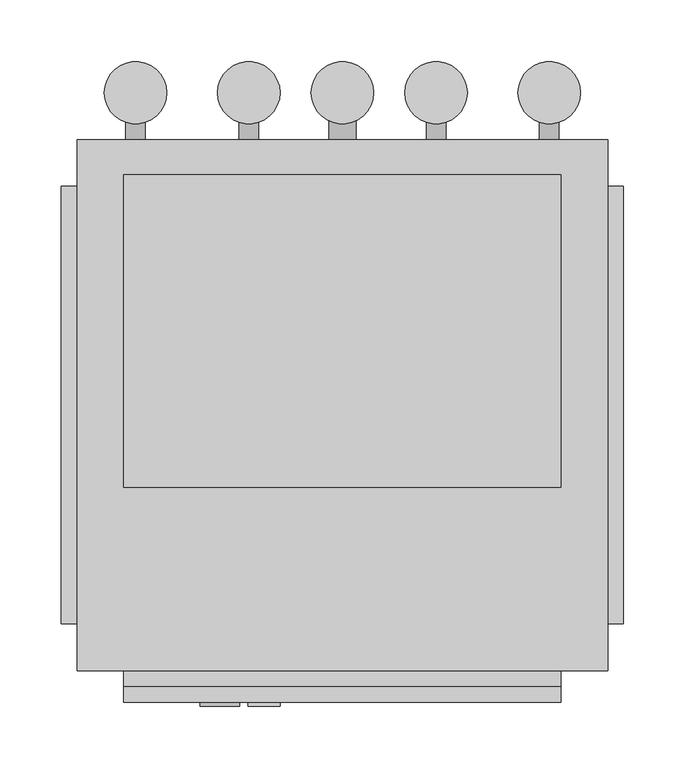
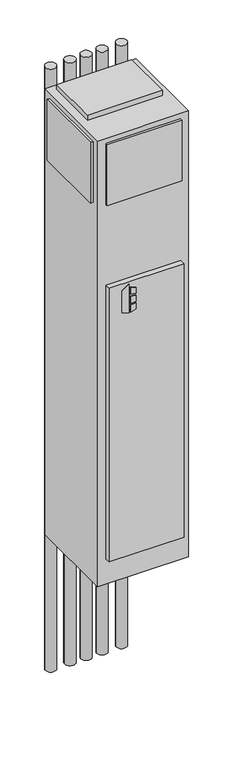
"""IFC4 building model written with IfcOpenShell, lengths in millimetres: proxy geometry, Concealed_Universal_Modular_Fan_Coil_Unit_-_MUY_-_IEC_-_4-Pipe_-_WithRisers_2022 : Size 03 - 277v/60Hz/1Ph - 4/1 Coil."""

from ifc_helpers import new_model, si_unit, point, frame, frame_2d, origin, origin_with_axes, place, context, project, spatial, polyline, circle_curve, trimmed, segment, composite_curve, outline, extrude, source, transform, mapped, element, save


def mechanical_equipment_edf2454a(model_context):
    return source(origin(), model_context, "Body", "SweptSolid", [
        extrude(outline(polyline([(1356.1480703, 252.4868862), (1346.2, 284.6602728), (1488.3709244, 284.6602728), (1465.3489183, 252.4868862), (1356.1480703, 252.4868862)])), frame((0.0, -215.9, 0.0), z_axis=(0.0, 1.0, 0.0), x_axis=(0.0, 0.0, 1.0)), (0.0, 0.0, 1.0), 3.175),
        extrude(outline(polyline([(1435.1473557, 291.4186058), (1431.9449632, 317.5), (1461.1738042, 317.5), (1469.2382193, 291.4186058), (1435.1473557, 291.4186058)])), frame((0.0, -215.9, 0.0), z_axis=(0.0, 1.0, 0.0), x_axis=(0.0, 0.0, 1.0)), (0.0, 0.0, 1.0), 3.175),
        extrude(outline(polyline([(1383.2838288, 317.5), (1379.6183279, 291.4186058), (1346.2, 291.4186058), (1354.8342372, 317.5), (1383.2838288, 317.5)])), frame((0.0, -215.9, 0.0), z_axis=(0.0, 1.0, 0.0), x_axis=(0.0, 0.0, 1.0)), (0.0, 0.0, 1.0), 3.175),
        extrude(outline(polyline([(1422.5989903, 317.5), (1424.8808166, 291.4186058), (1388.9432681, 291.4186058), (1391.6845331, 317.5), (1422.5989903, 317.5)])), frame((0.0, -215.9, 0.0), z_axis=(0.0, 1.0, 0.0), x_axis=(0.0, 0.0, 1.0)), (0.0, 0.0, 1.0), 3.175),
        extrude(outline(composite_curve([segment(trimmed(circle_curve(frame_2d((200.025, 282.575)), 25.4), [point((174.625, 282.575))], [point((225.425, 282.575))], False, "CARTESIAN"), True, "CONTINUOUS"), segment(trimmed(circle_curve(frame_2d((200.025, 282.575)), 25.4), [point((225.425, 282.575))], [point((174.625, 282.575))], False, "CARTESIAN"), True, "CONTINUOUS")], self_intersect=False)), frame((0.0, 0.0, -711.2), z_axis=(0.0, 0.0, 1.0), x_axis=(1.0, 0.0, 0.0)), (0.0, 0.0, 1.0), 3022.6),
        extrude(outline(composite_curve([segment(trimmed(circle_curve(frame_2d((292.1, 282.575)), 25.4), [point((266.7, 282.575))], [point((317.5, 282.575))], False, "CARTESIAN"), True, "CONTINUOUS"), segment(trimmed(circle_curve(frame_2d((292.1, 282.575)), 25.4), [point((317.5, 282.575))], [point((266.7, 282.575))], False, "CARTESIAN"), True, "CONTINUOUS")], self_intersect=False)), frame((0.0, 0.0, -711.2), z_axis=(0.0, 0.0, 1.0), x_axis=(1.0, 0.0, 0.0)), (0.0, 0.0, 1.0), 3022.6),
        extrude(outline(composite_curve([segment(trimmed(circle_curve(frame_2d((368.3, 282.575)), 25.4), [point((342.9, 282.575))], [point((393.7, 282.575))], False, "CARTESIAN"), True, "CONTINUOUS"), segment(trimmed(circle_curve(frame_2d((368.3, 282.575)), 25.4), [point((393.7, 282.575))], [point((342.9, 282.575))], False, "CARTESIAN"), True, "CONTINUOUS")], self_intersect=False)), frame((0.0, 0.0, -711.2), z_axis=(0.0, 0.0, 1.0), x_axis=(1.0, 0.0, 0.0)), (0.0, 0.0, 1.0), 3022.6),
        extrude(outline(composite_curve([segment(trimmed(circle_curve(frame_2d((444.5, 282.575)), 25.4), [point((419.1, 282.575))], [point((469.9, 282.575))], False, "CARTESIAN"), True, "CONTINUOUS"), segment(trimmed(circle_curve(frame_2d((444.5, 282.575)), 25.4), [point((469.9, 282.575))], [point((419.1, 282.575))], False, "CARTESIAN"), True, "CONTINUOUS")], self_intersect=False)), frame((0.0, 0.0, -711.2), z_axis=(0.0, 0.0, 1.0), x_axis=(1.0, 0.0, 0.0)), (0.0, 0.0, 1.0), 3022.6),
        extrude(outline(composite_curve([segment(trimmed(circle_curve(frame_2d((536.575, 282.575)), 25.4), [point((511.175, 282.575))], [point((561.975, 282.575))], False, "CARTESIAN"), True, "CONTINUOUS"), segment(trimmed(circle_curve(frame_2d((536.575, 282.575)), 25.4), [point((561.975, 282.575))], [point((511.175, 282.575))], False, "CARTESIAN"), True, "CONTINUOUS")], self_intersect=False)), frame((0.0, 0.0, -711.2), z_axis=(0.0, 0.0, 1.0), x_axis=(1.0, 0.0, 0.0)), (0.0, 0.0, 1.0), 3022.6),
        extrude(outline(composite_curve([segment(trimmed(circle_curve(frame_2d((990.6, 536.575)), 7.9375), [point((990.6, 528.6375))], [point((990.6, 544.5125))], False, "CARTESIAN"), True, "CONTINUOUS"), segment(trimmed(circle_curve(frame_2d((990.6, 536.575)), 7.9375), [point((990.6, 544.5125))], [point((990.6, 528.6375))], False, "CARTESIAN"), True, "CONTINUOUS")], self_intersect=False)), frame((0.0, 244.475, 0.0), z_axis=(0.0, 1.0, 0.0), x_axis=(0.0, 0.0, 1.0)), (0.0, 0.0, 1.0), 50.8),
        extrude(outline(composite_curve([segment(trimmed(circle_curve(frame_2d((990.6, 444.5)), 7.9375), [point((990.6, 436.5625))], [point((990.6, 452.4375))], False, "CARTESIAN"), True, "CONTINUOUS"), segment(trimmed(circle_curve(frame_2d((990.6, 444.5)), 7.9375), [point((990.6, 452.4375))], [point((990.6, 436.5625))], False, "CARTESIAN"), True, "CONTINUOUS")], self_intersect=False)), frame((0.0, 244.475, 0.0), z_axis=(0.0, 1.0, 0.0), x_axis=(0.0, 0.0, 1.0)), (0.0, 0.0, 1.0), 50.8),
        extrude(outline(composite_curve([segment(trimmed(circle_curve(frame_2d((990.6, 292.1)), 7.9375), [point((990.6, 284.1625))], [point((990.6, 300.0375))], False, "CARTESIAN"), True, "CONTINUOUS"), segment(trimmed(circle_curve(frame_2d((990.6, 292.1)), 7.9375), [point((990.6, 300.0375))], [point((990.6, 284.1625))], False, "CARTESIAN"), True, "CONTINUOUS")], self_intersect=False)), frame((0.0, 244.475, 0.0), z_axis=(0.0, 1.0, 0.0), x_axis=(0.0, 0.0, 1.0)), (0.0, 0.0, 1.0), 50.8),
        extrude(outline(composite_curve([segment(trimmed(circle_curve(frame_2d((990.6, 200.025)), 7.9375), [point((990.6, 192.0875))], [point((990.6, 207.9625))], False, "CARTESIAN"), True, "CONTINUOUS"), segment(trimmed(circle_curve(frame_2d((990.6, 200.025)), 7.9375), [point((990.6, 207.9625))], [point((990.6, 192.0875))], False, "CARTESIAN"), True, "CONTINUOUS")], self_intersect=False)), frame((0.0, 244.475, 0.0), z_axis=(0.0, 1.0, 0.0), x_axis=(0.0, 0.0, 1.0)), (0.0, 0.0, 1.0), 50.8),
        extrude(outline(composite_curve([segment(trimmed(circle_curve(frame_2d((76.2, 368.3)), 11.1125), [point((76.2, 357.1875))], [point((76.2, 379.4125))], False, "CARTESIAN"), True, "CONTINUOUS"), segment(trimmed(circle_curve(frame_2d((76.2, 368.3)), 11.1125), [point((76.2, 379.4125))], [point((76.2, 357.1875))], False, "CARTESIAN"), True, "CONTINUOUS")], self_intersect=False)), frame((0.0, 244.475, 0.0), z_axis=(0.0, 1.0, 0.0), x_axis=(0.0, 0.0, 1.0)), (0.0, 0.0, 1.0), 50.8),
        extrude(outline(polyline([(546.1, 215.9), (546.1, -38.1), (190.5, -38.1), (190.5, 215.9), (546.1, 215.9)])), frame((0.0, 0.0, 2235.2), z_axis=(0.0, 0.0, 1.0), x_axis=(1.0, 0.0, 0.0)), (0.0, 0.0, 1.0), 25.4),
        extrude(outline(polyline([(139.7, -149.225), (139.7, 206.375), (152.4, 206.375), (152.4, -149.225), (139.7, -149.225)])), frame((0.0, 0.0, 1905.0), z_axis=(0.0, 0.0, 1.0), x_axis=(1.0, 0.0, 0.0)), (0.0, 0.0, 1.0), 304.8),
        extrude(outline(polyline([(596.9, 206.375), (596.9, -149.225), (584.2, -149.225), (584.2, 206.375), (596.9, 206.375)])), frame((0.0, 0.0, 1905.0), z_axis=(0.0, 0.0, 1.0), x_axis=(1.0, 0.0, 0.0)), (0.0, 0.0, 1.0), 304.8),
        extrude(outline(polyline([(546.1, -200.025), (190.5, -200.025), (190.5, -187.325), (546.1, -187.325), (546.1, -200.025)])), frame((0.0, 0.0, 1905.0), z_axis=(0.0, 0.0, 1.0), x_axis=(1.0, 0.0, 0.0)), (0.0, 0.0, 1.0), 304.8),
        extrude(outline(polyline([(546.1, -212.725), (190.5, -212.725), (190.5, -187.325), (546.1, -187.325), (546.1, -212.725)])), frame((0.0, 0.0, 127.0), z_axis=(0.0, 0.0, 1.0), x_axis=(1.0, 0.0, 0.0)), (0.0, 0.0, 1.0), 1371.6),
        extrude(outline(polyline([(584.2, 244.475), (584.2, -187.325), (152.4, -187.325), (152.4, 244.475), (584.2, 244.475)])), origin_with_axes(), (0.0, 0.0, 1.0), 2235.2),
    ])


if __name__ == "__main__":
    model = new_model("IFC4")
    model_context = context("Model", 3, world=origin())
    ifc_project = project(units=[si_unit("LENGTHUNIT", "METRE", prefix="MILLI")], contexts=[model_context])
    site = spatial("IfcSite", under=ifc_project)
    building = spatial("IfcBuilding", under=site)
    placement = place(None, origin())
    mechanical_equipment_shape = mechanical_equipment_edf2454a(model_context)
    element("IfcBuildingElementProxy", 1, Name="Concealed_Universal_Modular_Fan_Coil_Unit_-_MUY_-_IEC_-_4-Pipe_-_WithRisers_2022 : Size 03 - 277v/60Hz/1Ph - 4/1 Coil", ObjectType="Concealed_Universal_Modular_Fan_Coil_Unit_-_MUY_-_IEC_-_4-Pipe_-_WithRisers_2022 : Size 03 - 277v/60Hz/1Ph - 4/1 Coil", at=placement, inside=building, context=model_context, shape_type="MappedRepresentation", body=[
        mapped(mechanical_equipment_shape, transform((0.0, 0.0, 0.0), x_axis=(1.0, 0.0, 0.0), y_axis=(0.0, 1.0, 0.0), z_axis=(0.0, 0.0, 1.0))),
    ])
    save(model, "model.ifc")
